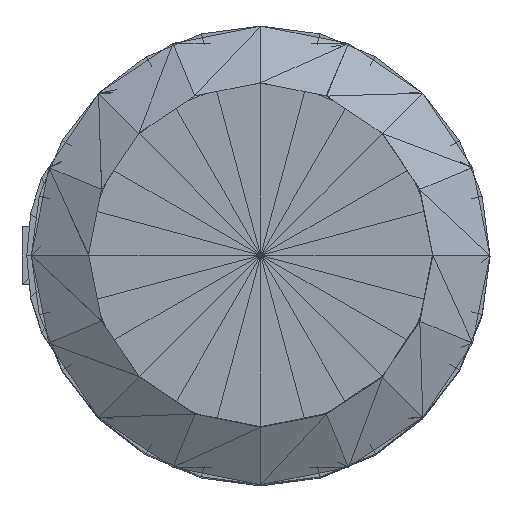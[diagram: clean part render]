
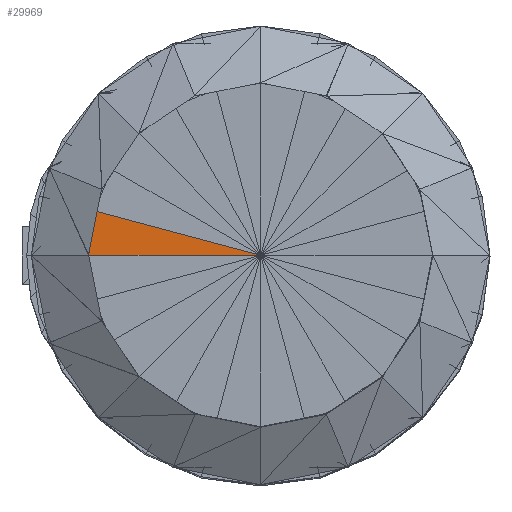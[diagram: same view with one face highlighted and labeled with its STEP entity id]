
A CAD part, top view. The second image highlights one B-rep face of the part: STEP entity #29969.
In plain terms, the highlighted planar face has unit normal (0, 0, 1).
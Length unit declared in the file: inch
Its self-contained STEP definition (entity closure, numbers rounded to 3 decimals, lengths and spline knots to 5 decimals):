
#29539=CARTESIAN_POINT('',(-0.,-0.0001,0.51086));
#29540=VERTEX_POINT('',#29539);
#29929=CARTESIAN_POINT('',(-0.10313,-0.0001,0.51086));
#29930=VERTEX_POINT('',#29929);
#29938=CARTESIAN_POINT('',(-0.10313,-0.0001,0.51086));
#29939=DIRECTION('',(1.,0.,-0.));
#29940=VECTOR('',#29939,0.10313);
#29941=LINE('',#29938,#29940);
#29942=EDGE_CURVE('',#29930,#29540,#29941,.T.);
#29947=CARTESIAN_POINT('',(-0.09961,0.02658,0.51086));
#29948=DIRECTION('',(0.,0.,1.));
#29949=DIRECTION('',(1.,0.,0.));
#29950=AXIS2_PLACEMENT_3D('',#29947,#29948,#29949);
#29951=PLANE('',#29950);
#29952=CARTESIAN_POINT('',(-0.09961,0.02658,0.51087));
#29953=VERTEX_POINT('',#29952);
#29954=CARTESIAN_POINT('',(-0.10313,-0.0001,0.51086));
#29955=DIRECTION('',(0.131,0.991,0.));
#29956=VECTOR('',#29955,0.02692);
#29957=LINE('',#29954,#29956);
#29958=EDGE_CURVE('',#29930,#29953,#29957,.T.);
#29959=ORIENTED_EDGE('',*,*,#29958,.F.);
#29960=ORIENTED_EDGE('',*,*,#29942,.T.);
#29961=CARTESIAN_POINT('',(0.,-0.0001,0.51086));
#29962=DIRECTION('',(-0.966,0.259,0.));
#29963=VECTOR('',#29962,0.10312);
#29964=LINE('',#29961,#29963);
#29965=EDGE_CURVE('',#29540,#29953,#29964,.T.);
#29966=ORIENTED_EDGE('',*,*,#29965,.T.);
#29967=EDGE_LOOP('',(#29959,#29960,#29966));
#29968=FACE_BOUND('',#29967,.T.);
#29969=ADVANCED_FACE('',(#29968),#29951,.T.);
